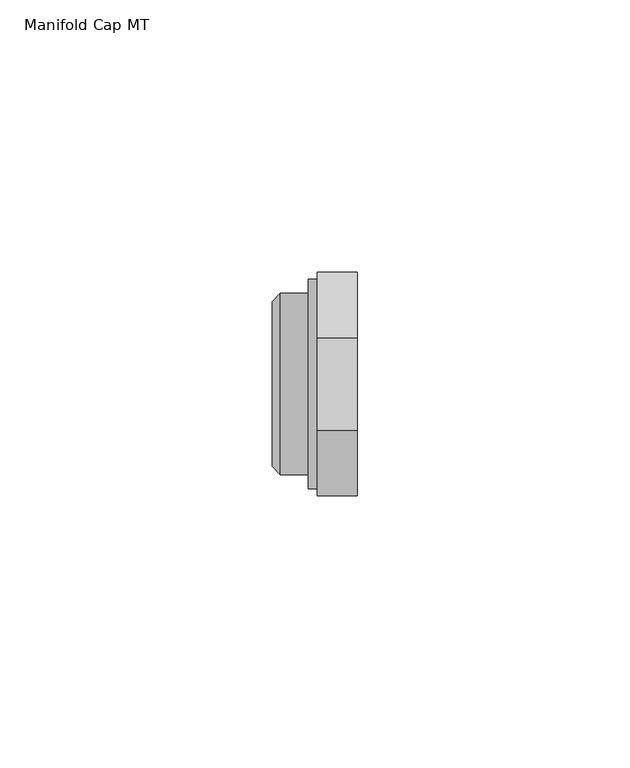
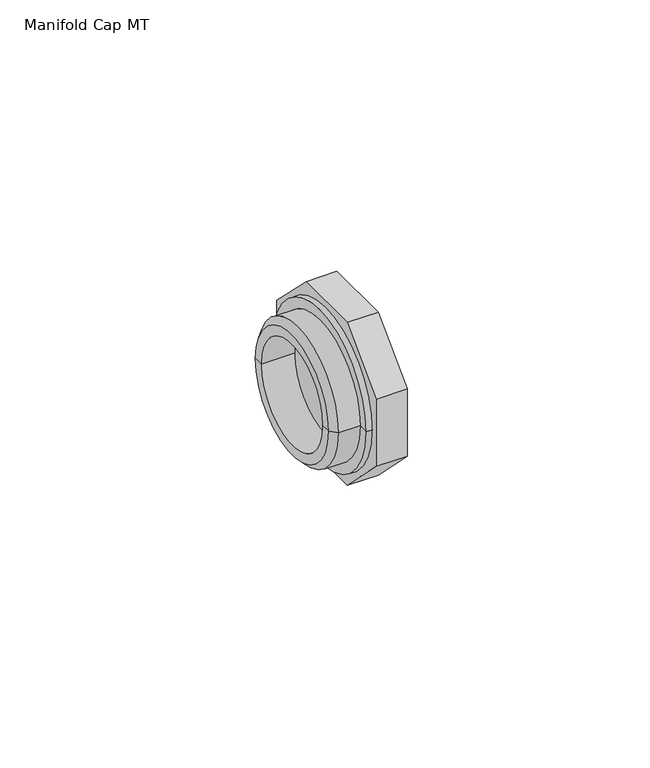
"""IFC4 building model written with IfcOpenShell, lengths in millimetres: pipe fitting geometry, Manifold Cap MT : Superpipe manifold Cap with seal- 1“MT."""

import ifcopenshell
import ifcopenshell.guid

model = None  # the IFC model being written
_history = None  # IfcOwnerHistory: only IFC2X3 demands one
_inside = {}  # id of a spatial element -> (the spatial element, [elements in it])
_under = {}  # id of a project, library or spatial element -> (it, [spatial elements below it])
_declared = {}  # id of a project -> (the project, [libraries it declares])
_typed = {}  # id of a type object -> (the type object, [elements of that type])
_made_of = {}  # id of a material, layer set ... -> (it, [elements and type objects made of it])


def new_model(schema):
    """Start an empty IFC model of exactly this schema.

    Asked for "IFC4X3", IfcOpenShell would pick the latest addendum, in which some entities
    have other attributes; the version numbers below select the first issue.
    IFC2X3 requires an IfcOwnerHistory on every rooted entity: one is made here for all.
    """
    global model, _history
    if schema == "IFC4X3":
        model = ifcopenshell.file(schema_version=(4, 3, 0, 0))
    else:
        model = ifcopenshell.file(schema=schema)
    _inside.clear()
    _under.clear()
    _declared.clear()
    _typed.clear()
    _made_of.clear()
    _history = None
    if model.schema == "IFC2X3":
        org = make("IfcOrganization", Name="unknown")
        user = make(
            "IfcPersonAndOrganization",
            ThePerson=make("IfcPerson", FamilyName="unknown"),
            TheOrganization=org,
        )
        app = make(
            "IfcApplication",
            ApplicationDeveloper=org,
            Version="unknown",
            ApplicationFullName="unknown",
            ApplicationIdentifier="unknown",
        )
        _history = make(
            "IfcOwnerHistory",
            OwningUser=user,
            OwningApplication=app,
            ChangeAction="ADDED",
            CreationDate=0,
        )
    return model


def make(cls, **values):
    """One entity of the class cls with the attributes given. An attribute that is None is left unset."""
    return model.create_entity(
        cls, **{name: value for name, value in values.items() if value is not None}
    )


def rooted(cls, **values):
    """An entity with a GlobalId (a new one), such as an element, a storey or a relation."""
    return make(cls, GlobalId=ifcopenshell.guid.new(), OwnerHistory=_history, **values)


def si_unit(unit_type, name, prefix=None):
    """IfcSIUnit, for example si_unit("LENGTHUNIT", "METRE", prefix="MILLI")."""
    return make("IfcSIUnit", UnitType=unit_type, Prefix=prefix, Name=name)


def assignment(units):
    """IfcUnitAssignment: the units of a project."""
    return None if units is None else make("IfcUnitAssignment", Units=units)


def point(xyz):
    """IfcCartesianPoint."""
    return None if xyz is None else make("IfcCartesianPoint", Coordinates=xyz)


def direction(xyz):
    """IfcDirection."""
    return None if xyz is None else make("IfcDirection", DirectionRatios=xyz)


def frame(location, z_axis=None, x_axis=None):
    """IfcAxis2Placement3D, a coordinate frame: its origin and axes. An axis left out is left unset."""
    return make(
        "IfcAxis2Placement3D",
        Location=point(location),
        Axis=direction(z_axis),
        RefDirection=direction(x_axis),
    )


def origin():
    """The frame at (0, 0, 0) with its axes left unset."""
    return frame((0.0, 0.0, 0.0))


def place(relative_to, where):
    """IfcLocalPlacement: puts the frame where relative to a parent placement (None: the world)."""
    return make(
        "IfcLocalPlacement", PlacementRelTo=relative_to, RelativePlacement=where
    )


def context(
    kind, dimensions, precision=None, world=None, true_north=None, identifier=None
):
    """IfcGeometricRepresentationContext, for example the 3D "Model" context."""
    return make(
        "IfcGeometricRepresentationContext",
        ContextIdentifier=identifier,
        ContextType=kind,
        CoordinateSpaceDimension=dimensions,
        Precision=precision,
        WorldCoordinateSystem=world,
        TrueNorth=true_north,
    )


def project(units=None, contexts=None):
    """IfcProject with its units and contexts."""
    return rooted(
        "IfcProject",
        Name="project",
        RepresentationContexts=contexts,
        UnitsInContext=assignment(units),
    )


def spatial(cls, under=None, at=None, **own):
    """A site, building, storey or space (cls), placed at a placement, below another one or the project."""
    s = rooted(cls, ObjectPlacement=at, **own)
    if under is not None:
        _under.setdefault(under.id(), (under, []))[1].append(s)
    return s


def polyline(points):
    """IfcPolyline through the points."""
    return make("IfcPolyline", Points=[point(p) for p in points])


def circle_curve(where, radius):
    """IfcCircle in the frame where."""
    return make("IfcCircle", Position=where, Radius=radius)


def outline(outer, holes=None, kind="AREA"):
    """IfcArbitraryClosedProfileDef: a profile drawn as a closed curve; with holes, ...WithVoids."""
    if holes is None:
        return make("IfcArbitraryClosedProfileDef", ProfileType=kind, OuterCurve=outer)
    return make(
        "IfcArbitraryProfileDefWithVoids",
        ProfileType=kind,
        OuterCurve=outer,
        InnerCurves=holes,
    )


def extrude(swept, where, along, depth):
    """IfcExtrudedAreaSolid: the profile swept, set in the frame where, extruded along a direction by depth."""
    return make(
        "IfcExtrudedAreaSolid",
        SweptArea=swept,
        Position=where,
        ExtrudedDirection=direction(along),
        Depth=depth,
    )


def shape(context_of_items, identifier, shape_type, items):
    """IfcShapeRepresentation: the items that make up one representation, for example the "Body"."""
    return make(
        "IfcShapeRepresentation",
        ContextOfItems=context_of_items,
        RepresentationIdentifier=identifier,
        RepresentationType=shape_type,
        Items=items,
    )


def source(mapping_origin, context_of_items, identifier, shape_type, items):
    """IfcRepresentationMap: a shape defined once, which mapped items show again and again."""
    return make(
        "IfcRepresentationMap",
        MappingOrigin=mapping_origin,
        MappedRepresentation=shape(context_of_items, identifier, shape_type, items),
    )


def transform(
    local_origin,
    x_axis=None,
    y_axis=None,
    z_axis=None,
    scale=None,
    scale2=None,
    scale3=None,
    uniform=True,
):
    """IfcCartesianTransformationOperator3D, or its non-uniform kind. x_axis, y_axis, z_axis: its Axis1, 2, 3."""
    if uniform:
        return make(
            "IfcCartesianTransformationOperator3D",
            Axis1=direction(x_axis),
            Axis2=direction(y_axis),
            LocalOrigin=point(local_origin),
            Scale=scale,
            Axis3=direction(z_axis),
        )
    return make(
        "IfcCartesianTransformationOperator3DnonUniform",
        Axis1=direction(x_axis),
        Axis2=direction(y_axis),
        LocalOrigin=point(local_origin),
        Scale=scale,
        Axis3=direction(z_axis),
        Scale2=scale2,
        Scale3=scale3,
    )


def mapped(mapping_source, mapping_target):
    """IfcMappedItem: shows the shape of a source again, moved by a transform."""
    return make(
        "IfcMappedItem", MappingSource=mapping_source, MappingTarget=mapping_target
    )


def made_of(thing, what):
    """Note that an element or type object is made of a material, layer set ...; save() writes the relation."""
    if what is not None:
        _made_of.setdefault(what.id(), (what, []))[1].append(thing)
    return thing


def element(
    cls,
    number,
    at=None,
    inside=None,
    cuts=None,
    type_object=None,
    material=None,
    context=None,
    identifier="Body",
    shape_type=None,
    held_by="IfcProductDefinitionShape",
    body=None,
    shapes=None,
    **own,
):
    """One element of the class cls, such as IfcWall. Its Tag is "e" and its number.

    at: its placement. inside: the storey or other place that contains it. cuts: it is an
    opening in that element (IfcRelVoidsElement). A single representation is given by context,
    identifier, shape_type and body (its items); several are given by shapes. held_by: the class
    of the entity that holds the representations. save() writes the other relations.
    """
    e = rooted(cls, Tag="e%d" % number, ObjectPlacement=at, **own)
    if body is not None:
        shapes = [shape(context, identifier, shape_type, body)]
    if shapes is not None:
        e.Representation = make(held_by, Representations=shapes)
    if inside is not None:
        _inside.setdefault(inside.id(), (inside, []))[1].append(e)
    if cuts is not None:
        rooted(
            "IfcRelVoidsElement", RelatingBuildingElement=cuts, RelatedOpeningElement=e
        )
    if type_object is not None:
        _typed.setdefault(type_object.id(), (type_object, []))[1].append(e)
    return made_of(e, material)


def aggregate(whole, parts):
    """IfcRelAggregates: a whole, such as a stair, and the parts it consists of."""
    return rooted("IfcRelAggregates", RelatingObject=whole, RelatedObjects=parts)


def save(model, path):
    """Write the relations noted so far, then the file.

    IfcRelAggregates (storeys below a building ...), IfcRelContainedInSpatialStructure (elements
    in a storey), IfcRelDefinesByType, IfcRelAssociatesMaterial and IfcRelDeclares: one each for
    every whole, place, type object, material and project.
    """
    for whole, parts in _under.values():
        aggregate(whole, parts)
    for where, things in _inside.values():
        rooted(
            "IfcRelContainedInSpatialStructure",
            RelatedElements=things,
            RelatingStructure=where,
        )
    for kind, things in _typed.values():
        rooted("IfcRelDefinesByType", RelatedObjects=things, RelatingType=kind)
    for what, things in _made_of.values():
        rooted("IfcRelAssociatesMaterial", RelatedObjects=things, RelatingMaterial=what)
    for by, libraries in _declared.values():
        rooted("IfcRelDeclares", RelatingContext=by, RelatedDefinitions=libraries)
    model.write(path)


def plane_surface(at):
    """IfcPlane: the flat surface through the origin of the frame at, square to its z axis."""
    return make("IfcPlane", Position=at)


def cylinder_surface(at, radius):
    """IfcCylindricalSurface: all points at the distance radius from the z axis of the frame at."""
    return make("IfcCylindricalSurface", Position=at, Radius=radius)


def revolved_surface(curve, axis_point, axis_direction):
    """IfcSurfaceOfRevolution: the curve turned about the line through axis_point along axis_direction."""
    return make(
        "IfcSurfaceOfRevolution",
        SweptCurve=make("IfcArbitraryOpenProfileDef", ProfileType="CURVE", Curve=curve),
        AxisPosition=make("IfcAxis1Placement", Location=point(axis_point), Axis=direction(axis_direction)),
    )


def advanced_brep(points, edges, surfaces, faces):
    """IfcAdvancedBrep: a solid bounded by faces that lie on surfaces and meet in shared edges.

    An edge is (start, end): straight between two places in points (the first is 0);
    or (start, end, curve); or (start, end, curve, False) where it runs against its curve.
    A face is (place in surfaces, loops), or (place, loops, False) where it looks against
    its surface's normal. A loop lists edges by number (the first is 1), with a minus sign
    where the edge is run from its end to its start. The first loop is the outer one.
    """
    corners = [point(p) for p in points]
    vertices = [make("IfcVertexPoint", VertexGeometry=c) for c in corners]
    made = []
    for start, end, *more in edges:
        made.append(
            make(
                "IfcEdgeCurve",
                EdgeStart=vertices[start],
                EdgeEnd=vertices[end],
                EdgeGeometry=more[0] if more else make("IfcPolyline", Points=[corners[start], corners[end]]),
                SameSense=more[1] if len(more) > 1 else True,
            )
        )
    hull = []
    for where, loops, *sense in faces:
        bounds = []
        for j, loop in enumerate(loops):
            ring = [make("IfcOrientedEdge", EdgeElement=made[abs(k) - 1], Orientation=k > 0) for k in loop]
            bounds.append(
                make(
                    "IfcFaceOuterBound" if j == 0 else "IfcFaceBound",
                    Bound=make("IfcEdgeLoop", EdgeList=ring),
                    Orientation=True,
                )
            )
        hull.append(make("IfcAdvancedFace", Bounds=bounds, FaceSurface=surfaces[where], SameSense=sense[0] if sense else True))
    return make("IfcAdvancedBrep", Outer=make("IfcClosedShell", CfsFaces=hull))


def manifold_cap_mt_88d565de(model_context):
    return source(origin(), model_context, "Body", "SolidModel", [
        extrude(outline(polyline([(20.5, 8.491378), (20.5, -8.491378), (8.491378, -20.5), (-8.491378, -20.5), (-20.5, -8.491378), (-20.5, 8.491378), (-8.491378, 20.5), (8.491378, 20.5), (20.5, 8.491378)])), frame((8.2292613, 0.0, 0.0), z_axis=(1.0, 0.0, 0.0), x_axis=(0.0, 1.0, 0.0)), (0.0, 0.0, 1.0), 7.3707387),
        advanced_brep(
        [(13.6, 0.0, 0.0), (13.6, 12.7500014, 0.0), (13.6, -12.7500014, 0.0), (15.3113249, -16.5792672, 0.0), (15.3113249, 16.5792672, 0.0), (15.3113249, 0.0, 0.0), (1.5, -16.6250018, 0.0), (1.5, 16.6250018, 0.0), (6.6, 16.6250018, 0.0), (6.6, -16.6250018, 0.0), (0.0, -15.1250018, 0.0), (0.0, 15.1250018, 0.0), (0.0, -12.7500014, 0.0), (0.0, 12.7500014, 0.0), (9.3, -16.5792672, 0.0), (9.3, 16.5792672, 0.0), (9.3, -19.2000021, 0.0), (9.3, 19.2000021, 0.0), (6.6, -19.2000021, 0.0), (6.6, 19.2000021, 0.0)],
        [
            (0, 1),
            (1, 2, circle_curve(frame((13.6, 0.0, 0.0), z_axis=(-1.0, 0.0, 0.0), x_axis=(0.0, 1.0, 0.0)), 12.7500014)),
            (2, 0),
            (2, 1, circle_curve(frame((13.6, 0.0, 0.0), z_axis=(-1.0, 0.0, 0.0), x_axis=(0.0, 1.0, 0.0)), 12.7500014)),
            (3, 4, circle_curve(frame((15.3113249, 0.0, 0.0), z_axis=(1.0, 0.0, 0.0), x_axis=(0.0, 1.0, 0.0)), 16.5792672)),
            (4, 5),
            (5, 3),
            (4, 3, circle_curve(frame((15.3113249, 0.0, 0.0), z_axis=(1.0, 0.0, 0.0), x_axis=(0.0, 1.0, 0.0)), 16.5792672)),
            (6, 7, circle_curve(frame((1.5, 0.0, 0.0), z_axis=(1.0, 0.0, 0.0), x_axis=(0.0, 1.0, 0.0)), 16.6250018)),
            (7, 8),
            (8, 9, circle_curve(frame((6.6, 0.0, 0.0), z_axis=(-1.0, 0.0, 0.0), x_axis=(0.0, 1.0, 0.0)), 16.6250018)),
            (9, 6),
            (7, 6, circle_curve(frame((1.5, 0.0, 0.0), z_axis=(1.0, 0.0, 0.0), x_axis=(0.0, 1.0, 0.0)), 16.6250018)),
            (9, 8, circle_curve(frame((6.6, 0.0, 0.0), z_axis=(-1.0, 0.0, 0.0), x_axis=(0.0, 1.0, 0.0)), 16.6250018)),
            (10, 11, circle_curve(frame((0.0, 0.0, 0.0), z_axis=(1.0, 0.0, 0.0), x_axis=(0.0, 1.0, 0.0)), 15.1250018)),
            (11, 7),
            (6, 10),
            (11, 10, circle_curve(frame((0.0, 0.0, 0.0), z_axis=(1.0, 0.0, 0.0), x_axis=(0.0, 1.0, 0.0)), 15.1250018)),
            (12, 13, circle_curve(frame((0.0, 0.0, 0.0), z_axis=(1.0, 0.0, 0.0), x_axis=(0.0, 1.0, 0.0)), 12.7500014)),
            (13, 11),
            (10, 12),
            (13, 12, circle_curve(frame((0.0, 0.0, 0.0), z_axis=(1.0, 0.0, 0.0), x_axis=(0.0, 1.0, 0.0)), 12.7500014)),
            (1, 13),
            (12, 2),
            (14, 15, circle_curve(frame((9.3, 0.0, 0.0), z_axis=(1.0, 0.0, 0.0), x_axis=(0.0, 1.0, 0.0)), 16.5792672)),
            (15, 4),
            (3, 14),
            (15, 14, circle_curve(frame((9.3, 0.0, 0.0), z_axis=(1.0, 0.0, 0.0), x_axis=(0.0, 1.0, 0.0)), 16.5792672)),
            (16, 17, circle_curve(frame((9.3, 0.0, 0.0), z_axis=(1.0, 0.0, 0.0), x_axis=(0.0, 1.0, 0.0)), 19.2000021)),
            (17, 15),
            (14, 16),
            (17, 16, circle_curve(frame((9.3, 0.0, 0.0), z_axis=(1.0, 0.0, 0.0), x_axis=(0.0, 1.0, 0.0)), 19.2000021)),
            (18, 19, circle_curve(frame((6.6, 0.0, 0.0), z_axis=(1.0, 0.0, 0.0), x_axis=(0.0, 1.0, 0.0)), 19.2000021)),
            (19, 17),
            (16, 18),
            (19, 18, circle_curve(frame((6.6, 0.0, 0.0), z_axis=(1.0, 0.0, 0.0), x_axis=(0.0, 1.0, 0.0)), 19.2000021)),
            (8, 19),
            (18, 9),
        ],
        [
            plane_surface(frame((13.6, 0.0, 0.0), z_axis=(-1.0, 0.0, 0.0), x_axis=(0.0, 1.0, 0.0))),
            plane_surface(frame((15.3113249, 0.0, 0.0), z_axis=(1.0, 0.0, 0.0), x_axis=(0.0, 1.0, 0.0))),
            cylinder_surface(frame((15.6, 0.0, 0.0), z_axis=(-1.0, 0.0, 0.0), x_axis=(0.0, 1.0, 0.0)), 16.6250018),
            revolved_surface(polyline([(1.5, 16.6250018, 0.0), (0.0, 15.1250018, 0.0)]), (15.6, 0.0, 0.0), (-1.0, 0.0, 0.0)),
            plane_surface(frame((0.0, 0.0, 0.0), z_axis=(-1.0, 0.0, 0.0), x_axis=(0.0, 1.0, 0.0))),
            revolved_surface(polyline([(0.0, 12.7500014, 0.0), (13.6, 12.7500014, 0.0)]), (15.6, 0.0, 0.0), (-1.0, 0.0, 0.0)),
            cylinder_surface(frame((15.6, 0.0, 0.0), z_axis=(-1.0, 0.0, 0.0), x_axis=(0.0, 1.0, 0.0)), 16.5792672),
            plane_surface(frame((9.3, 0.0, 0.0), z_axis=(1.0, 0.0, 0.0), x_axis=(0.0, 1.0, 0.0))),
            cylinder_surface(frame((15.6, 0.0, 0.0), z_axis=(-1.0, 0.0, 0.0), x_axis=(0.0, 1.0, 0.0)), 19.2000021),
            plane_surface(frame((6.6, 0.0, 0.0), z_axis=(-1.0, 0.0, 0.0), x_axis=(0.0, 1.0, 0.0))),
        ],
        [
            (0, [[1, 2, 3]]),
            (0, [[-3, 4, -1]]),
            (1, [[5, 6, 7]]),
            (1, [[8, -7, -6]]),
            (2, [[9, 10, 11, 12]]),
            (2, [[13, -12, 14, -10]]),
            (3, [[15, 16, -9, 17]]),
            (3, [[18, -17, -13, -16]]),
            (4, [[19, 20, -15, 21]]),
            (4, [[22, -21, -18, -20]]),
            (5, [[-2, 23, -19, 24]]),
            (5, [[-4, -24, -22, -23]]),
            (6, [[25, 26, -5, 27]]),
            (6, [[28, -27, -8, -26]]),
            (7, [[29, 30, -25, 31]]),
            (7, [[32, -31, -28, -30]]),
            (8, [[33, 34, -29, 35]]),
            (8, [[36, -35, -32, -34]]),
            (9, [[-11, 37, -33, 38]]),
            (9, [[-14, -38, -36, -37]]),
        ],
    ),
    ])


if __name__ == "__main__":
    model = new_model("IFC4")
    model_context = context("Model", 3, world=origin())
    ifc_project = project(units=[si_unit("LENGTHUNIT", "METRE", prefix="MILLI")], contexts=[model_context])
    site = spatial("IfcSite", under=ifc_project)
    building = spatial("IfcBuilding", under=site)
    placement = place(None, origin())
    manifold_cap_mt_shape = manifold_cap_mt_88d565de(model_context)
    element("IfcPipeFitting", 1, ObjectType="Manifold Cap MT : Superpipe manifold Cap with seal- 1“MT", at=placement, inside=building, context=model_context, shape_type="MappedRepresentation", body=[
        mapped(manifold_cap_mt_shape, transform((0.0, 0.0, 0.0), x_axis=(1.0, 0.0, 0.0), y_axis=(0.0, 1.0, 0.0), z_axis=(0.0, 0.0, 1.0))),
    ])
    save(model, "model.ifc")
